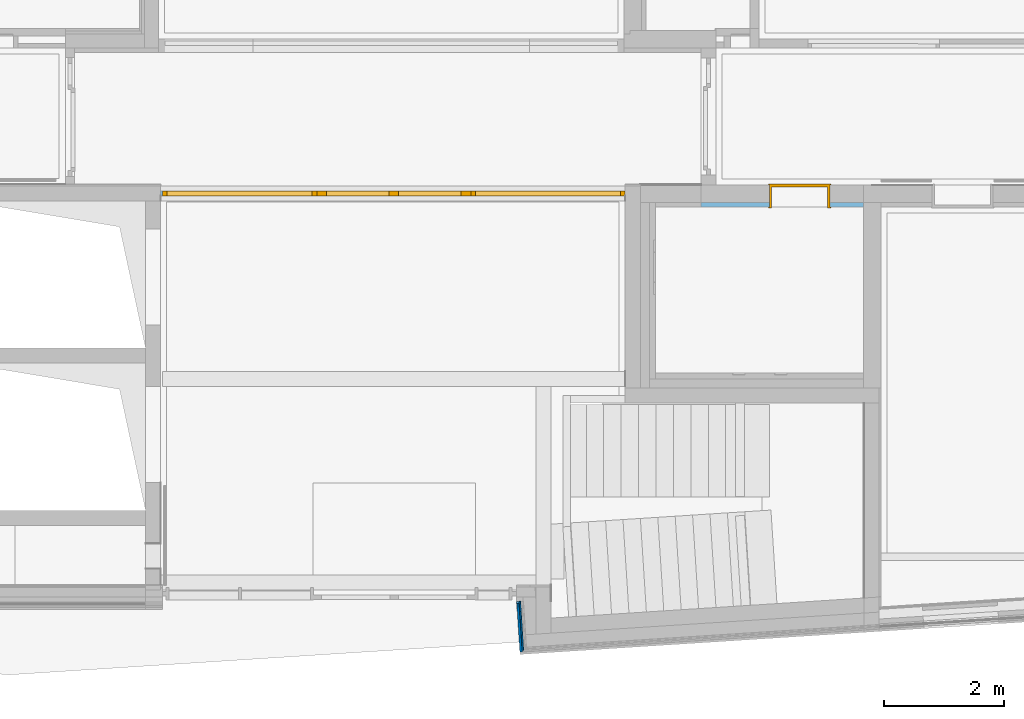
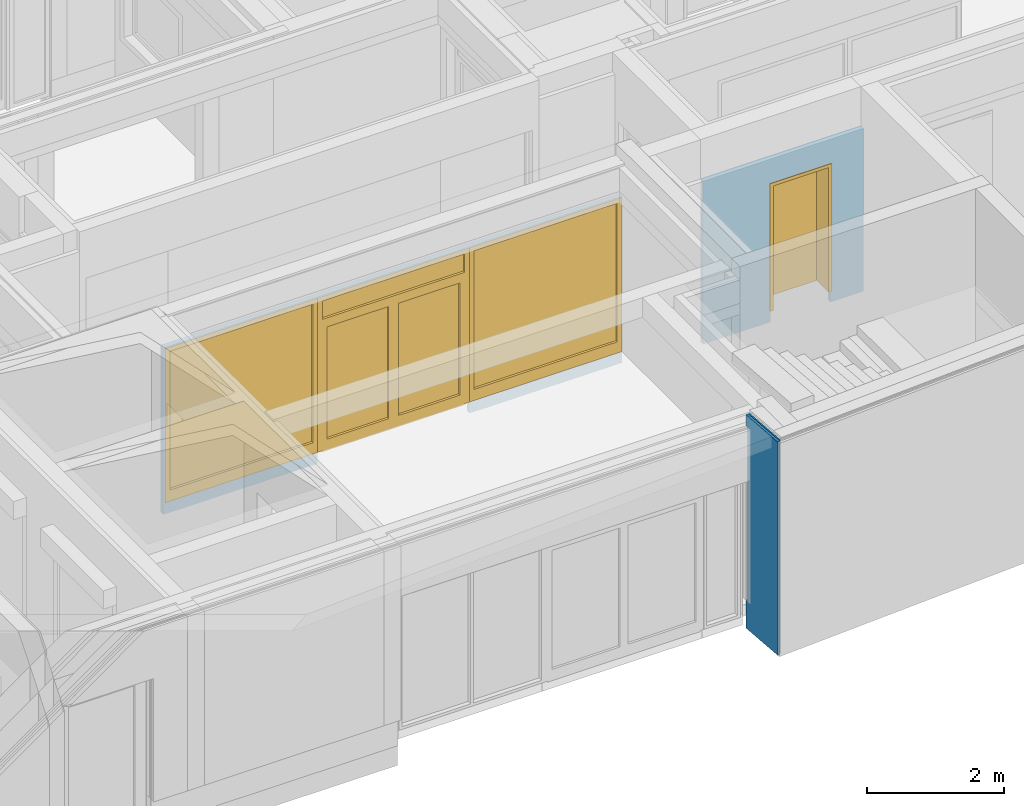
# One storey, part 94 of 207: 2 doors, 2 walls, 2 windows, 4 openings, plus 2 elements that do not belong to this part.
"""IFC4 building model written with IfcOpenShell, lengths in metres."""

from ifc_helpers import new_model, entity, si_unit, converted_unit, derived_unit, frame, frame_2d, origin, origin_with_axes, place, context, subcontext, project, spatial, polyline, rectangle, outline, extrude, closed_shell, open_shell, faceted_brep, surface_model, source, transform, mapped, material, type_object, element, fill, save


model = new_model("IFC4")

# Units and contexts
model_context = context("Model", 3, precision=1e-05, world=origin())
body_context = subcontext(model_context, "Body", "Model", "MODEL_VIEW")
ifc_project = project(units=[si_unit("LENGTHUNIT", "METRE"), si_unit("AREAUNIT", "SQUARE_METRE"), si_unit("VOLUMEUNIT", "CUBIC_METRE"), si_unit("MASSUNIT", "GRAM", prefix="KILO"), converted_unit("PLANEANGLEUNIT", "DEGREE", entity("IfcPlaneAngleMeasure", 0.0174532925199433), si_unit("PLANEANGLEUNIT", "RADIAN"), dimensions=[0, 0, 0, 0, 0, 0, 0]), derived_unit("THERMALTRANSMITTANCEUNIT", [(si_unit("POWERUNIT", "WATT"), 1), (si_unit("THERMODYNAMICTEMPERATUREUNIT", "KELVIN"), -1), (si_unit("LENGTHUNIT", "METRE"), -2)]), derived_unit("VOLUMETRICFLOWRATEUNIT", [(si_unit("LENGTHUNIT", "METRE"), 3), (converted_unit("TIMEUNIT", "hour", entity("IfcTimeMeasure", 3600.0), si_unit("TIMEUNIT", "SECOND"), dimensions=[0, 0, 1, 0, 0, 0, 0]), -1), (si_unit("LENGTHUNIT", "METRE"), -1)])], contexts=[model_context])

# Site, building, storey
site_placement = place(None, origin())
site = spatial("IfcSite", under=ifc_project, at=site_placement, Name="Psychiatrie Neubau Wunstorf", CompositionType="ELEMENT")
building_placement = place(site_placement, origin())
building = spatial("IfcBuilding", under=site, at=building_placement, Name="Neubau H2 Stationsgebäude", CompositionType="ELEMENT")
storey_placement = place(building_placement, frame((0.0, 0.0, -0.2)))
storey = spatial("IfcBuildingStorey", under=building, at=storey_placement, Name="H2 Ebene 0", CompositionType="ELEMENT", Elevation=-0.2)

# Walls
ifc_material_1 = material(Name="WA-TL")
wall_1_placement = place(storey_placement, frame((56.5133682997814, -7.20133806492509, 0.0)))
element("IfcWall", 1, at=wall_1_placement, inside=storey, material=ifc_material_1, context=body_context, shape_type="Brep", body=[
    faceted_brep([(0.000117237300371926, 0.811337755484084, 3.6), (0.000117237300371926, 0.811337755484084, 0.5), (0.0241665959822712, 0.811337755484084, 0.5), (0.0241665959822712, 0.811337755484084, 3.6), (0.0240901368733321, 0.812529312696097, 3.6), (0.0, 0.813164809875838, 3.6), (0.0, 0.813164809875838, 0.5), (0.0240901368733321, 0.812529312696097, 0.5), (0.0240901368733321, 0.812529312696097, 3.8), (0.0, 0.813164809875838, 3.8), (0.0521786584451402, 0.0, 3.8), (0.0521786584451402, 0.0, 0.0), (0.0, 0.813164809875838, 0.0), (0.0240901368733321, 0.812529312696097, 0.0), (0.0761294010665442, 0.00153685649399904, 0.0), (0.0761294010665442, 0.00153685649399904, 3.8)], [[[0, 1, 2, 3]], [[3, 4, 5, 0]], [[1, 6, 7, 2]], [[4, 8, 9, 5]], [[5, 9, 10, 11, 12, 6, 1, 0]], [[6, 12, 13, 7]], [[3, 2, 7, 13, 14, 15, 8, 4]], [[14, 11, 10, 15]], [[15, 10, 9, 8]], [[11, 14, 13, 12]]], orient=[[False], [False], [False], [False], [False], [False], [False], [False], [False], [False]]),
])
ifc_material_2 = material(Name="WA-HS")
wall_2_placement = place(storey_placement, frame((56.471210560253, -7.22797830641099, 0.0)))
element("IfcWall", 2, at=wall_2_placement, inside=storey, material=ifc_material_2, context=body_context, shape_type="Brep", body=[
    faceted_brep([(0.0, 0.840917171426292, 0.5), (0.0421577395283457, 0.839805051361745, 0.5), (0.0445850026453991, 0.801977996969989, 0.5), (0.00249862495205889, 0.801977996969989, 0.5), (0.0421577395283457, 0.839805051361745, 3.6), (0.0, 0.840917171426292, 3.6), (0.00249862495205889, 0.801977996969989, 3.6), (0.0445850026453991, 0.801977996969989, 3.6), (0.0421577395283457, 0.839805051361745, 3.8), (0.0, 0.840917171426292, 3.8), (0.0539594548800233, 0.0, 3.8), (0.0539594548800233, 0.0, 0.0), (0.0, 0.840917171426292, 0.0), (0.0421577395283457, 0.839805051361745, 0.0), (0.0958732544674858, 0.00268949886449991, 0.0), (0.0958732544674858, 0.00268949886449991, 3.8)], [[[0, 1, 2, 3]], [[4, 5, 6, 7]], [[6, 3, 2, 7]], [[4, 8, 9, 5]], [[3, 6, 5, 9, 10, 11, 12, 0]], [[0, 12, 13, 1]], [[4, 7, 2, 1, 13, 14, 15, 8]], [[14, 11, 10, 15]], [[15, 10, 9, 8]], [[11, 14, 13, 12]]], orient=[[False], [False], [False], [False], [False], [False], [False], [False], [False], [False]]),
])

# Wall, openings, windows, door
ifc_material_3 = material(Name="WI-LB")
wall_3_placement = place(storey_placement, frame((50.5500000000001, 0.356002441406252, 0.0), z_axis=(0.0, 0.0, 1.0), x_axis=(1.0, -2.42731990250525e-16, 0.0)))
wall_3 = element("IfcWall", 3, at=wall_3_placement, inside=storey, material=ifc_material_3, context=body_context, shape_type="SweptSolid", body=[
    extrude(rectangle(XDim=7.7280000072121, YDim=0.08, at=frame_2d((3.86400000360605, 0.04), x_axis=(1.0, 0.0))), origin_with_axes(), (0.0, 0.0, 1.0), 2.97),
])
opening_1_placement = place(wall_3_placement, frame((0.0299996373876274, 0.0, 0.2), z_axis=(-2.22044604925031e-16, 1.0, 0.0), x_axis=(0.0, 0.0, 1.0)))
opening_1 = element("IfcOpeningElement", 4, at=opening_1_placement, cuts=wall_3, Name="Fensteröffnung", ObjectType="Opening", context=body_context, shape_type="SweptSolid", body=[
    extrude(outline(polyline([(2.75, 2.569), (2.75, 0.0), (0.0, 0.0), (0.0, 2.569), (2.75, 2.569)])), origin_with_axes(), (0.0, 0.0, 1.0), 0.08),
])
opening_2_placement = place(wall_3_placement, frame((2.59899982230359, 0.0, 0.0), z_axis=(0.0, 1.0, 0.0), x_axis=(0.0, 0.0, 1.0)))
opening_2 = element("IfcOpeningElement", 5, at=opening_2_placement, cuts=wall_3, Name="Türöffnung", ObjectType="Opening", context=body_context, shape_type="SweptSolid", body=[
    extrude(outline(polyline([(2.95, 2.56), (2.95, 0.0), (0.0, 0.0), (0.0, 2.56), (2.95, 2.56)])), origin_with_axes(), (0.0, 0.0, 1.0), 0.08),
])
opening_3_placement = place(wall_3_placement, frame((5.15899982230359, 0.0, 0.2), z_axis=(0.0, 1.0, 0.0), x_axis=(0.0, 0.0, 1.0)))
opening_3 = element("IfcOpeningElement", 6, at=opening_3_placement, cuts=wall_3, Name="Fensteröffnung", ObjectType="Opening", context=body_context, shape_type="SweptSolid", body=[
    extrude(outline(polyline([(2.75, 2.56900018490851), (2.75, 0.0), (0.0, 0.0), (0.0, 2.56900018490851), (2.75, 2.56900018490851)])), origin_with_axes(), (0.0, 0.0, 1.0), 0.08),
])
shared_shape_1 = source(origin_with_axes(), body_context, "Body", "SurfaceModel", [
    surface_model("IfcShellBasedSurfaceModel", [(2.569, 0.0, 2.75), (2.569, 0.0, 0.0), (2.489, 0.0, 0.0), (2.489, 0.0, 2.75), (2.569, 0.0800000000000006, 0.0), (2.569, 0.0800000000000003, 2.75), (2.489, 0.0800000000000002, 2.75), (2.489, 0.0800000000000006, 0.0)], [closed_shell([[[0, 1, 2, 3]], [[4, 5, 6, 7]], [[1, 0, 5, 4]], [[2, 1, 4, 7]], [[3, 2, 7, 6]], [[0, 3, 6, 5]]], orient=[[False], [False], [False], [False], [False], [False]])]),
    surface_model("IfcShellBasedSurfaceModel", [(0.08, 0.0, 2.75), (0.08, 0.0, 0.0), (0.0, 0.0, 0.0), (0.0, 0.0, 2.75), (0.08, 0.0800000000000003, 0.0), (0.08, 0.0799999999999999, 2.75), (0.0, 0.0799999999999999, 2.75), (0.0, 0.0800000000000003, 0.0)], [closed_shell([[[0, 1, 2, 3]], [[4, 5, 6, 7]], [[1, 0, 5, 4]], [[2, 1, 4, 7]], [[3, 2, 7, 6]], [[0, 3, 6, 5]]], orient=[[False], [False], [False], [False], [False], [False]])]),
    surface_model("IfcShellBasedSurfaceModel", [(2.489, 0.0, 0.2), (2.489, 0.0, 0.0), (0.08, 0.0, 0.0), (0.08, 0.0, 0.2), (2.489, 0.0800000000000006, 0.0), (2.489, 0.0800000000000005, 0.2), (0.08, 0.0800000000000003, 0.2), (0.08, 0.0800000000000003, 0.0)], [closed_shell([[[0, 1, 2, 3]], [[4, 5, 6, 7]], [[1, 0, 5, 4]], [[2, 1, 4, 7]], [[3, 2, 7, 6]], [[0, 3, 6, 5]]], orient=[[False], [False], [False], [False], [False], [False]])]),
    surface_model("IfcShellBasedSurfaceModel", [(2.489, 0.0, 2.75), (2.489, 0.0, 2.67), (0.08, 0.0, 2.67), (0.08, 0.0, 2.75), (2.489, 0.0800000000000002, 2.67), (2.489, 0.0800000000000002, 2.75), (0.08, 0.0799999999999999, 2.75), (0.08, 0.0799999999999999, 2.67)], [closed_shell([[[0, 1, 2, 3]], [[4, 5, 6, 7]], [[1, 0, 5, 4]], [[2, 1, 4, 7]], [[3, 2, 7, 6]], [[0, 3, 6, 5]]], orient=[[False], [False], [False], [False], [False], [False]])]),
    surface_model("IfcShellBasedSurfaceModel", [(2.489, 0.0400000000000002, 0.2), (0.08, 0.0399999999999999, 0.2), (0.08, 0.0399999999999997, 2.67), (2.489, 0.0399999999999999, 2.67)], [open_shell([[[0, 1, 2, 3]]], orient=[[False]])]),
])
window_1_placement = place(opening_1_placement, frame((0.0, 0.0, 0.0), z_axis=(1.0, 0.0, 0.0), x_axis=(0.0, 1.0, -2.22706000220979e-16)))
window_1 = element("IfcWindow", 7, at=window_1_placement, inside=storey, Name="Fenster", OverallHeight=2.75, OverallWidth=2.569, PartitioningType="USERDEFINED", PredefinedType="WINDOW", context=body_context, shape_type="MappedRepresentation", body=[
    mapped(shared_shape_1, transform((0.0, 0.0, 0.0), x_axis=(1.0, 0.0, 0.0), y_axis=(0.0, 1.0, 0.0), z_axis=(0.0, 0.0, 1.0), scale=1.0)),
])
fill(opening_1, window_1)
ifc_material_4 = material(Name="TI-2F-SG-D")
door_type_1 = type_object("IfcDoorType", Name="SMT", OperationType="DOUBLE_DOOR_SINGLE_SWING", ParameterTakesPrecedence=False, PredefinedType="DOOR")
shared_shape_2 = source(origin_with_axes(), body_context, "Body", "SurfaceModel", [
    surface_model("IfcShellBasedSurfaceModel", [(2.56, 0.0, 2.95), (2.56, 0.0, 0.2), (2.48, 0.0, 0.2), (2.48, 0.0, 2.95), (2.56, 0.0800000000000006, 0.2), (2.56, 0.0800000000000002, 2.95), (2.48, 0.0800000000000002, 2.95), (2.48, 0.0800000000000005, 0.2)], [closed_shell([[[0, 1, 2, 3]], [[4, 5, 6, 7]], [[1, 0, 5, 4]], [[2, 1, 4, 7]], [[3, 2, 7, 6]], [[0, 3, 6, 5]]], orient=[[False], [False], [False], [False], [False], [False]])]),
    surface_model("IfcShellBasedSurfaceModel", [(0.08, 0.0, 2.95), (0.08, 0.0, 0.2), (0.0, 0.0, 0.2), (0.0, 0.0, 2.95), (0.08, 0.0799999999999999, 0.2), (0.08, 0.0799999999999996, 2.95), (0.0, 0.0799999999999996, 2.95), (0.0, 0.0799999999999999, 0.2)], [closed_shell([[[0, 1, 2, 3]], [[4, 5, 6, 7]], [[1, 0, 5, 4]], [[2, 1, 4, 7]], [[3, 2, 7, 6]], [[0, 3, 6, 5]]], orient=[[False], [False], [False], [False], [False], [False]])]),
    surface_model("IfcShellBasedSurfaceModel", [(2.48, 0.0, 2.95), (2.48, 0.0, 2.87), (0.08, 0.0, 2.87), (0.08, 0.0, 2.95), (2.48, 0.0800000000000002, 2.87), (2.48, 0.0800000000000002, 2.95), (0.08, 0.0799999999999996, 2.95), (0.08, 0.0799999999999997, 2.87)], [closed_shell([[[0, 1, 2, 3]], [[4, 5, 6, 7]], [[1, 0, 5, 4]], [[2, 1, 4, 7]], [[3, 2, 7, 6]], [[0, 3, 6, 5]]], orient=[[False], [False], [False], [False], [False], [False]])]),
    surface_model("IfcShellBasedSurfaceModel", [(2.48, 0.0, 2.54), (2.48, 0.0, 2.46), (0.08, 0.0, 2.46), (0.08, 0.0, 2.54), (2.48, 0.0800000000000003, 2.46), (2.48, 0.0800000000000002, 2.54), (0.08, 0.0799999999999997, 2.54), (0.08, 0.0799999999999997, 2.46)], [closed_shell([[[0, 1, 2, 3]], [[4, 5, 6, 7]], [[1, 0, 5, 4]], [[2, 1, 4, 7]], [[3, 2, 7, 6]], [[0, 3, 6, 5]]], orient=[[False], [False], [False], [False], [False], [False]])]),
    surface_model("IfcShellBasedSurfaceModel", [(2.48, 0.0399999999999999, 2.54), (0.08, 0.0399999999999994, 2.54), (0.08, 0.0399999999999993, 2.87), (2.48, 0.0399999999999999, 2.87)], [open_shell([[[0, 1, 2, 3]]], orient=[[False]])]),
    surface_model("IfcShellBasedSurfaceModel", [(2.48, 0.0, 2.46), (2.48, 0.0, 0.18), (2.4, 0.0, 0.18), (2.4, 0.0, 2.46), (2.48, 0.0800000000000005, 0.18), (2.48, 0.0800000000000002, 2.46), (2.4, 0.0800000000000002, 2.46), (2.4, 0.0800000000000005, 0.18)], [closed_shell([[[0, 1, 2, 3]], [[4, 5, 6, 7]], [[1, 0, 5, 4]], [[2, 1, 4, 7]], [[3, 2, 7, 6]], [[0, 3, 6, 5]]], orient=[[False], [False], [False], [False], [False], [False]])]),
    surface_model("IfcShellBasedSurfaceModel", [(1.3605, 0.0, 2.46), (1.3605, 0.0, 0.18), (1.2805, 0.0, 0.18), (1.2805, 0.0, 2.46), (1.3605, 0.0800000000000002, 0.18), (1.3605, 0.0799999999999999, 2.46), (1.2805, 0.0799999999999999, 2.46), (1.2805, 0.0800000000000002, 0.18)], [closed_shell([[[0, 1, 2, 3]], [[4, 5, 6, 7]], [[1, 0, 5, 4]], [[2, 1, 4, 7]], [[3, 2, 7, 6]], [[0, 3, 6, 5]]], orient=[[False], [False], [False], [False], [False], [False]])]),
    surface_model("IfcShellBasedSurfaceModel", [(2.4, 0.0, 0.38), (2.4, 0.0, 0.18), (1.3605, 0.0, 0.18), (1.3605, 0.0, 0.38), (2.4, 0.0800000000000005, 0.18), (2.4, 0.0800000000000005, 0.38), (1.3605, 0.0800000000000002, 0.38), (1.3605, 0.0800000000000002, 0.18)], [closed_shell([[[0, 1, 2, 3]], [[4, 5, 6, 7]], [[1, 0, 5, 4]], [[2, 1, 4, 7]], [[3, 2, 7, 6]], [[0, 3, 6, 5]]], orient=[[False], [False], [False], [False], [False], [False]])]),
    surface_model("IfcShellBasedSurfaceModel", [(2.4, 0.0, 2.46), (2.4, 0.0, 2.38), (1.3605, 0.0, 2.38), (1.3605, 0.0, 2.46), (2.4, 0.0800000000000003, 2.38), (2.4, 0.0800000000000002, 2.46), (1.3605, 0.0799999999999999, 2.46), (1.3605, 0.08, 2.38)], [closed_shell([[[0, 1, 2, 3]], [[4, 5, 6, 7]], [[1, 0, 5, 4]], [[2, 1, 4, 7]], [[3, 2, 7, 6]], [[0, 3, 6, 5]]], orient=[[False], [False], [False], [False], [False], [False]])]),
    surface_model("IfcShellBasedSurfaceModel", [(1.2795, 0.0, 2.46), (1.2795, 0.0, 0.18), (1.1995, 0.0, 0.18), (1.1995, 0.0, 2.46), (1.2795, 0.0800000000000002, 0.18), (1.2795, 0.0799999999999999, 2.46), (1.1995, 0.0799999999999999, 2.46), (1.1995, 0.0800000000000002, 0.18)], [closed_shell([[[0, 1, 2, 3]], [[4, 5, 6, 7]], [[1, 0, 5, 4]], [[2, 1, 4, 7]], [[3, 2, 7, 6]], [[0, 3, 6, 5]]], orient=[[False], [False], [False], [False], [False], [False]])]),
    surface_model("IfcShellBasedSurfaceModel", [(0.16, 0.0, 2.46), (0.16, 0.0, 0.18), (0.08, 0.0, 0.18), (0.08, 0.0, 2.46), (0.16, 0.0799999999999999, 0.18), (0.16, 0.0799999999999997, 2.46), (0.08, 0.0799999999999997, 2.46), (0.08, 0.0799999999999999, 0.18)], [closed_shell([[[0, 1, 2, 3]], [[4, 5, 6, 7]], [[1, 0, 5, 4]], [[2, 1, 4, 7]], [[3, 2, 7, 6]], [[0, 3, 6, 5]]], orient=[[False], [False], [False], [False], [False], [False]])]),
    surface_model("IfcShellBasedSurfaceModel", [(1.1995, 0.0, 0.38), (1.1995, 0.0, 0.18), (0.16, 0.0, 0.18), (0.16, 0.0, 0.38), (1.1995, 0.0800000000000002, 0.18), (1.1995, 0.0800000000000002, 0.38), (0.16, 0.0799999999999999, 0.38), (0.16, 0.0799999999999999, 0.18)], [closed_shell([[[0, 1, 2, 3]], [[4, 5, 6, 7]], [[1, 0, 5, 4]], [[2, 1, 4, 7]], [[3, 2, 7, 6]], [[0, 3, 6, 5]]], orient=[[False], [False], [False], [False], [False], [False]])]),
    surface_model("IfcShellBasedSurfaceModel", [(1.1995, 0.0, 2.46), (1.1995, 0.0, 2.38), (0.16, 0.0, 2.38), (0.16, 0.0, 2.46), (1.1995, 0.08, 2.38), (1.1995, 0.0799999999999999, 2.46), (0.16, 0.0799999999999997, 2.46), (0.16, 0.0799999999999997, 2.38)], [closed_shell([[[0, 1, 2, 3]], [[4, 5, 6, 7]], [[1, 0, 5, 4]], [[2, 1, 4, 7]], [[3, 2, 7, 6]], [[0, 3, 6, 5]]], orient=[[False], [False], [False], [False], [False], [False]])]),
    surface_model("IfcShellBasedSurfaceModel", [(2.4, 0.0400000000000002, 0.38), (1.3605, 0.0399999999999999, 0.38), (1.3605, 0.0399999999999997, 2.38), (2.4, 0.0399999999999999, 2.38)], [open_shell([[[0, 1, 2, 3]]], orient=[[False]])]),
    surface_model("IfcShellBasedSurfaceModel", [(1.1995, 0.0399999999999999, 0.38), (0.16, 0.0399999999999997, 0.38), (0.16, 0.0399999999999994, 2.38), (1.1995, 0.0399999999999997, 2.38)], [open_shell([[[0, 1, 2, 3]]], orient=[[False]])]),
])
door_1_placement = place(opening_2_placement, frame((0.0, 2.56, 0.08), z_axis=(1.0, 0.0, 0.0), x_axis=(0.0, -1.0, 1.51707516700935e-18)))
door_1 = element("IfcDoor", 8, at=door_1_placement, inside=storey, type_object=door_type_1, material=ifc_material_4, Name="SMT", OverallHeight=2.95, OverallWidth=2.56, context=body_context, shape_type="MappedRepresentation", body=[
    mapped(shared_shape_2, transform((0.0, 0.0, 0.0), x_axis=(1.0, 0.0, 0.0), y_axis=(0.0, 1.0, 0.0), z_axis=(0.0, 0.0, 1.0), scale=1.0)),
])
fill(opening_2, door_1)
shared_shape_3 = source(origin_with_axes(), body_context, "Body", "SurfaceModel", [
    surface_model("IfcShellBasedSurfaceModel", [(2.56900018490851, 0.0, 2.75), (2.56900018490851, 0.0, 0.0), (2.48900018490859, 0.0, 0.0), (2.48900018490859, 0.0, 2.75), (2.56900018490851, 0.0800000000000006, 0.0), (2.56900018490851, 0.0800000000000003, 2.75), (2.48900018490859, 0.0800000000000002, 2.75), (2.48900018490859, 0.0800000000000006, 0.0)], [closed_shell([[[0, 1, 2, 3]], [[4, 5, 6, 7]], [[1, 0, 5, 4]], [[2, 1, 4, 7]], [[3, 2, 7, 6]], [[0, 3, 6, 5]]], orient=[[False], [False], [False], [False], [False], [False]])]),
    surface_model("IfcShellBasedSurfaceModel", [(0.07999999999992, 0.0, 2.75), (0.07999999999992, 0.0, 0.0), (0.0, 0.0, 0.0), (0.0, 0.0, 2.75), (0.07999999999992, 0.0800000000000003, 0.0), (0.07999999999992, 0.0799999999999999, 2.75), (0.0, 0.0799999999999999, 2.75), (0.0, 0.0800000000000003, 0.0)], [closed_shell([[[0, 1, 2, 3]], [[4, 5, 6, 7]], [[1, 0, 5, 4]], [[2, 1, 4, 7]], [[3, 2, 7, 6]], [[0, 3, 6, 5]]], orient=[[False], [False], [False], [False], [False], [False]])]),
    surface_model("IfcShellBasedSurfaceModel", [(2.48900018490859, 0.0, 0.2), (2.48900018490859, 0.0, 0.0), (0.07999999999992, 0.0, 0.0), (0.07999999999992, 0.0, 0.2), (2.48900018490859, 0.0800000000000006, 0.0), (2.48900018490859, 0.0800000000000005, 0.2), (0.07999999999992, 0.0800000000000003, 0.2), (0.07999999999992, 0.0800000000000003, 0.0)], [closed_shell([[[0, 1, 2, 3]], [[4, 5, 6, 7]], [[1, 0, 5, 4]], [[2, 1, 4, 7]], [[3, 2, 7, 6]], [[0, 3, 6, 5]]], orient=[[False], [False], [False], [False], [False], [False]])]),
    surface_model("IfcShellBasedSurfaceModel", [(2.48900018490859, 0.0, 2.75), (2.48900018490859, 0.0, 2.67), (0.07999999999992, 0.0, 2.67), (0.07999999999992, 0.0, 2.75), (2.48900018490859, 0.0800000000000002, 2.67), (2.48900018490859, 0.0800000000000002, 2.75), (0.07999999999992, 0.0799999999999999, 2.75), (0.07999999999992, 0.0799999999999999, 2.67)], [closed_shell([[[0, 1, 2, 3]], [[4, 5, 6, 7]], [[1, 0, 5, 4]], [[2, 1, 4, 7]], [[3, 2, 7, 6]], [[0, 3, 6, 5]]], orient=[[False], [False], [False], [False], [False], [False]])]),
    surface_model("IfcShellBasedSurfaceModel", [(2.48900018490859, 0.0400000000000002, 0.2), (0.07999999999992, 0.0399999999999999, 0.2), (0.07999999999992, 0.0399999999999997, 2.67), (2.48900018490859, 0.0399999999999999, 2.67)], [open_shell([[[0, 1, 2, 3]]], orient=[[False]])]),
])
window_2_placement = place(opening_3_placement, frame((0.0, 0.0, 0.0), z_axis=(1.0, 0.0, 0.0), x_axis=(0.0, 1.0, -6.6137777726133e-19)))
window_2 = element("IfcWindow", 9, at=window_2_placement, inside=storey, Name="Fenster", OverallHeight=2.75, OverallWidth=2.569, PartitioningType="USERDEFINED", PredefinedType="WINDOW", context=body_context, shape_type="MappedRepresentation", body=[
    mapped(shared_shape_3, transform((0.0, 0.0, 0.0), x_axis=(1.0, 0.0, 0.0), y_axis=(0.0, 1.0, 0.0), z_axis=(0.0, 0.0, 1.0), scale=1.0)),
])
fill(opening_3, window_2)

# Wall, opening, door
ifc_material_5 = material(Name="WI-LB")
wall_4_placement = place(storey_placement, frame((62.239793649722, 0.246002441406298, 0.0), z_axis=(0.0, 0.0, 1.0), x_axis=(-1.0, 1.26296264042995e-16, 0.0)))
wall_4 = element("IfcWall", 10, at=wall_4_placement, inside=storey, material=ifc_material_5, context=body_context, shape_type="SweptSolid", body=[
    extrude(rectangle(XDim=2.70047982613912, YDim=0.075, at=frame_2d((1.35023991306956, 0.0375), x_axis=(1.0, 0.0))), origin_with_axes(), (0.0, 0.0, 1.0), 2.9),
])
opening_4_placement = place(wall_4_placement, frame((0.555568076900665, 0.0, 0.0), z_axis=(0.0, 1.0, 0.0), x_axis=(0.0, 0.0, 1.0)))
opening_4 = element("IfcOpeningElement", 11, at=opening_4_placement, cuts=wall_4, Name="Türöffnung", ObjectType="Opening", context=body_context, shape_type="SweptSolid", body=[
    extrude(outline(polyline([(2.46, 1.01), (2.46, 0.0), (0.0, 0.0), (0.0, 1.01), (2.46, 1.01)])), origin_with_axes(), (0.0, 0.0, 1.0), 0.075),
])
ifc_material_6 = material(Name="TI-1F-UZ-D")
door_type_2 = type_object("IfcDoorType", Name="SMT", OperationType="SINGLE_SWING_RIGHT", ParameterTakesPrecedence=False, PredefinedType="DOOR")
shared_shape_4 = source(origin_with_axes(), body_context, "Body", "Brep", [
    faceted_brep([(0.0, -0.0150000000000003, 2.46), (0.04, -0.0150000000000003, 2.46), (0.04, -0.015, 0.2), (0.0, -0.015, 0.2), (0.0, 0.38, 0.2), (0.04, 0.38, 0.2), (0.04, 0.38, 2.46), (0.0, 0.38, 2.46)], [[[0, 1, 2, 3]], [[4, 5, 6, 7]], [[3, 4, 7, 0]], [[2, 5, 4, 3]], [[1, 6, 5, 2]], [[0, 7, 6, 1]]], orient=[[False], [False], [False], [False], [False], [False]]),
    faceted_brep([(0.0, -0.0150000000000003, 2.475), (0.0, -0.015, 0.2), (-0.015, -0.015, 0.2), (-0.015, -0.0150000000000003, 2.475), (0.0, 0.0, 0.2), (0.0, 0.0, 2.475), (-0.015, 0.0, 2.475), (-0.015, 0.0, 0.2)], [[[0, 1, 2, 3]], [[4, 5, 6, 7]], [[1, 0, 5, 4]], [[2, 1, 4, 7]], [[3, 2, 7, 6]], [[0, 3, 6, 5]]], orient=[[False], [False], [False], [False], [False], [False]]),
    faceted_brep([(0.0, 0.365, 2.475), (0.0, 0.365, 0.2), (-0.015, 0.365, 0.2), (-0.015, 0.365, 2.475), (0.0, 0.38, 0.2), (0.0, 0.38, 2.475), (-0.015, 0.38, 2.475), (-0.015, 0.38, 0.2)], [[[0, 1, 2, 3]], [[4, 5, 6, 7]], [[1, 0, 5, 4]], [[2, 1, 4, 7]], [[3, 2, 7, 6]], [[0, 3, 6, 5]]], orient=[[False], [False], [False], [False], [False], [False]]),
    faceted_brep([(0.97, -0.0150000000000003, 2.46), (1.01, -0.0150000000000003, 2.46), (1.01, -0.015, 0.2), (0.97, -0.015, 0.2), (0.97, 0.38, 0.2), (1.01, 0.38, 0.2), (1.01, 0.38, 2.46), (0.97, 0.38, 2.46)], [[[0, 1, 2, 3]], [[4, 5, 6, 7]], [[3, 4, 7, 0]], [[2, 5, 4, 3]], [[1, 6, 5, 2]], [[0, 7, 6, 1]]], orient=[[False], [False], [False], [False], [False], [False]]),
    faceted_brep([(1.01, -0.0150000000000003, 2.475), (1.025, -0.0150000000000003, 2.475), (1.025, -0.015, 0.2), (1.01, -0.015, 0.2), (1.01, 0.0, 0.2), (1.025, 0.0, 0.2), (1.025, 0.0, 2.475), (1.01, 0.0, 2.475)], [[[0, 1, 2, 3]], [[4, 5, 6, 7]], [[3, 4, 7, 0]], [[2, 5, 4, 3]], [[1, 6, 5, 2]], [[0, 7, 6, 1]]], orient=[[False], [False], [False], [False], [False], [False]]),
    faceted_brep([(1.01, 0.365, 2.475), (1.025, 0.365, 2.475), (1.025, 0.365, 0.2), (1.01, 0.365, 0.2), (1.01, 0.38, 0.2), (1.025, 0.38, 0.2), (1.025, 0.38, 2.475), (1.01, 0.38, 2.475)], [[[0, 1, 2, 3]], [[4, 5, 6, 7]], [[3, 4, 7, 0]], [[2, 5, 4, 3]], [[1, 6, 5, 2]], [[0, 7, 6, 1]]], orient=[[False], [False], [False], [False], [False], [False]]),
    faceted_brep([(0.04, -0.0150000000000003, 2.46), (0.97, -0.0150000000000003, 2.46), (0.97, -0.0150000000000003, 2.42), (0.04, -0.0150000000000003, 2.42), (0.04, 0.38, 2.42), (0.97, 0.38, 2.42), (0.97, 0.38, 2.46), (0.04, 0.38, 2.46)], [[[0, 1, 2, 3]], [[4, 5, 6, 7]], [[3, 4, 7, 0]], [[2, 5, 4, 3]], [[1, 6, 5, 2]], [[0, 7, 6, 1]]], orient=[[False], [False], [False], [False], [False], [False]]),
    faceted_brep([(0.0, -0.0150000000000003, 2.475), (1.01, -0.0150000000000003, 2.475), (1.01, -0.0150000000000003, 2.46), (0.0, -0.0150000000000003, 2.46), (0.0, 0.0, 2.46), (1.01, 0.0, 2.46), (1.01, 0.0, 2.475), (0.0, 0.0, 2.475)], [[[0, 1, 2, 3]], [[4, 5, 6, 7]], [[3, 4, 7, 0]], [[2, 5, 4, 3]], [[1, 6, 5, 2]], [[0, 7, 6, 1]]], orient=[[False], [False], [False], [False], [False], [False]]),
    faceted_brep([(0.0, 0.365, 2.475), (1.01, 0.365, 2.475), (1.01, 0.365, 2.46), (0.0, 0.365, 2.46), (0.0, 0.38, 2.46), (1.01, 0.38, 2.46), (1.01, 0.38, 2.475), (0.0, 0.38, 2.475)], [[[0, 1, 2, 3]], [[4, 5, 6, 7]], [[3, 4, 7, 0]], [[2, 5, 4, 3]], [[1, 6, 5, 2]], [[0, 7, 6, 1]]], orient=[[False], [False], [False], [False], [False], [False]]),
    faceted_brep([(0.025, 0.331, 2.435), (0.985, 0.331, 2.435), (0.985, 0.331, 0.2), (0.025, 0.331, 0.2), (0.025, 0.381, 0.2), (0.985, 0.381, 0.2), (0.985, 0.381, 2.435), (0.025, 0.381, 2.435)], [[[0, 1, 2, 3]], [[4, 5, 6, 7]], [[3, 4, 7, 0]], [[2, 5, 4, 3]], [[1, 6, 5, 2]], [[0, 7, 6, 1]]], orient=[[False], [False], [False], [False], [False], [False]]),
])
door_2_placement = place(opening_4_placement, frame((0.0, 1.01, 0.075), z_axis=(1.0, 0.0, 0.0), x_axis=(0.0, -1.0, -1.37350385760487e-17)))
door_2 = element("IfcDoor", 12, at=door_2_placement, inside=storey, type_object=door_type_2, material=ifc_material_6, Name="SMT", OverallHeight=2.46, OverallWidth=1.01, context=body_context, shape_type="MappedRepresentation", body=[
    mapped(shared_shape_4, transform((0.0, 0.0, 0.0), x_axis=(1.0, 0.0, 0.0), y_axis=(0.0, 1.0, 0.0), z_axis=(0.0, 0.0, 1.0), scale=1.0)),
])
fill(opening_4, door_2)

save(model, "model.ifc")
